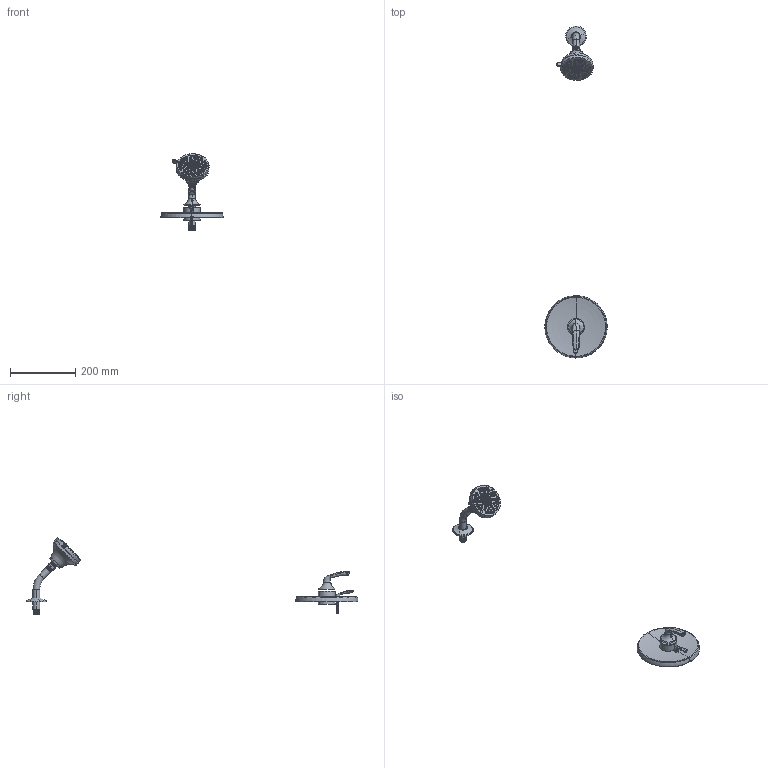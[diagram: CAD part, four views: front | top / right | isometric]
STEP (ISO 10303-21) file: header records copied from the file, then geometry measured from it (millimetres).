
FILE_DESCRIPTION (( 'STEP AP203' ), '1' );
FILE_NAME ('S5591.STEP', '2025-01-16T21:57:33', ( '' ), ( '' ), 'SwSTEP 2.0', 'SolidWorks 2023', '' );
FILE_SCHEMA (( 'CONFIG_CONTROL_DESIGN' ));
Length unit declared in the file: inch
Products named in the file (1): S5591
Bounding box: 190.86 x 1016.11 x 234.14 mm (x, y, z)
Surface area: 155065.3 mm2 (no closed solid volume)
Topology: 0 solids, 169 shells, 649 faces, 2802 edges, 2230 vertices
Faces by surface type: bspline 219, cone 184, plane 111, torus 69, cylinder 47, sphere 19
Entity records: 110180 total; most frequent: CARTESIAN_POINT 91220, ORIENTED_EDGE 3682, EDGE_CURVE 2797, DIRECTION 2793, VERTEX_POINT 2227, B_SPLINE_CURVE_WITH_KNOTS 1568, AXIS2_PLACEMENT_3D 1172, EDGE_LOOP 856
